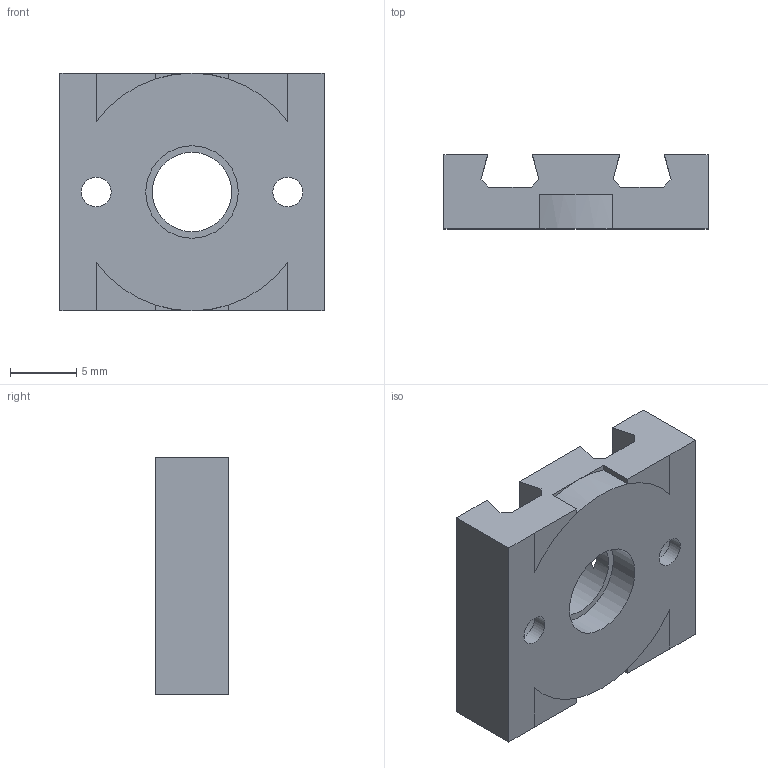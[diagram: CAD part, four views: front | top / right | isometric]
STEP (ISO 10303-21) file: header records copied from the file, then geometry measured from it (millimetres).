
FILE_DESCRIPTION(/* description */ (''),/* implementation_level */ '2;1');
FILE_NAME(/* name */ 'C:/Users/priba/Documents/Temp/mrm-ps-1109hbHornCoupler.step',/* time_stamp */ '2019-11-02T07:43:45+01:00',/* author */ (''),/* organization */ (''),/* preprocessor_version */ 'ST-DEVELOPER v18',/* originating_system */ 'Autodesk Translation Framework v8.9.1.1155',/* authorisation */ '');
FILE_SCHEMA (('AUTOMOTIVE_DESIGN { 1 0 10303 214 3 1 1 }'));
Length unit declared in the file: millimetre
Products named in the file (1): mrm-ps-1109hbHornCoupler
Bounding box: 20 x 5.6 x 18 mm (x, y, z)
Volume: 1343.1 mm3; surface area: 1434.1 mm2
Topology: 1 solids, 1 shells, 45 faces, 136 edges, 92 vertices
Faces by surface type: plane 37, cylinder 8
Full cylindrical faces by diameter (mm): 2.25 x2, 5 x2, 6 x1, 7 x1
Entity records: 1588 total; most frequent: CARTESIAN_POINT 274, ORIENTED_EDGE 272, DIRECTION 272, EDGE_CURVE 136, LINE 92, VECTOR 92, VERTEX_POINT 92, AXIS2_PLACEMENT_3D 90
